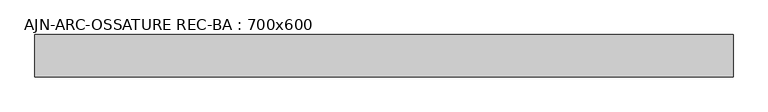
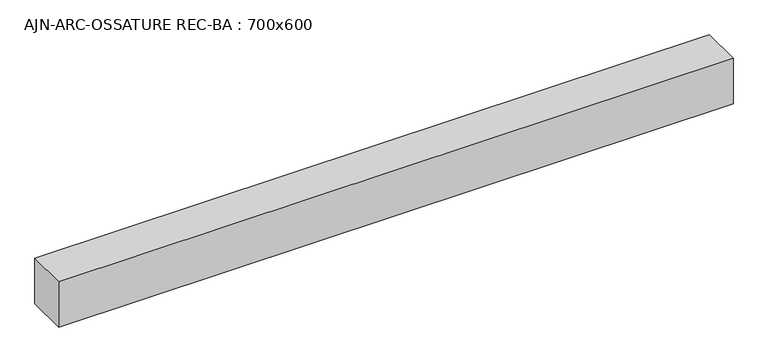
"""IFC4 building model written with IfcOpenShell, lengths in millimetres: beam geometry, AJN-ARC-OSSATURE REC-BA : 700x600."""

import ifcopenshell
import ifcopenshell.guid

model = None  # the IFC model being written
_history = None  # IfcOwnerHistory: only IFC2X3 demands one
_inside = {}  # id of a spatial element -> (the spatial element, [elements in it])
_under = {}  # id of a project, library or spatial element -> (it, [spatial elements below it])
_declared = {}  # id of a project -> (the project, [libraries it declares])
_typed = {}  # id of a type object -> (the type object, [elements of that type])
_made_of = {}  # id of a material, layer set ... -> (it, [elements and type objects made of it])


def new_model(schema):
    """Start an empty IFC model of exactly this schema.

    Asked for "IFC4X3", IfcOpenShell would pick the latest addendum, in which some entities
    have other attributes; the version numbers below select the first issue.
    IFC2X3 requires an IfcOwnerHistory on every rooted entity: one is made here for all.
    """
    global model, _history
    if schema == "IFC4X3":
        model = ifcopenshell.file(schema_version=(4, 3, 0, 0))
    else:
        model = ifcopenshell.file(schema=schema)
    _inside.clear()
    _under.clear()
    _declared.clear()
    _typed.clear()
    _made_of.clear()
    _history = None
    if model.schema == "IFC2X3":
        org = make("IfcOrganization", Name="unknown")
        user = make(
            "IfcPersonAndOrganization",
            ThePerson=make("IfcPerson", FamilyName="unknown"),
            TheOrganization=org,
        )
        app = make(
            "IfcApplication",
            ApplicationDeveloper=org,
            Version="unknown",
            ApplicationFullName="unknown",
            ApplicationIdentifier="unknown",
        )
        _history = make(
            "IfcOwnerHistory",
            OwningUser=user,
            OwningApplication=app,
            ChangeAction="ADDED",
            CreationDate=0,
        )
    return model


def make(cls, **values):
    """One entity of the class cls with the attributes given. An attribute that is None is left unset."""
    return model.create_entity(
        cls, **{name: value for name, value in values.items() if value is not None}
    )


def rooted(cls, **values):
    """An entity with a GlobalId (a new one), such as an element, a storey or a relation."""
    return make(cls, GlobalId=ifcopenshell.guid.new(), OwnerHistory=_history, **values)


def si_unit(unit_type, name, prefix=None):
    """IfcSIUnit, for example si_unit("LENGTHUNIT", "METRE", prefix="MILLI")."""
    return make("IfcSIUnit", UnitType=unit_type, Prefix=prefix, Name=name)


def assignment(units):
    """IfcUnitAssignment: the units of a project."""
    return None if units is None else make("IfcUnitAssignment", Units=units)


def point(xyz):
    """IfcCartesianPoint."""
    return None if xyz is None else make("IfcCartesianPoint", Coordinates=xyz)


def direction(xyz):
    """IfcDirection."""
    return None if xyz is None else make("IfcDirection", DirectionRatios=xyz)


def frame(location, z_axis=None, x_axis=None):
    """IfcAxis2Placement3D, a coordinate frame: its origin and axes. An axis left out is left unset."""
    return make(
        "IfcAxis2Placement3D",
        Location=point(location),
        Axis=direction(z_axis),
        RefDirection=direction(x_axis),
    )


def origin():
    """The frame at (0, 0, 0) with its axes left unset."""
    return frame((0.0, 0.0, 0.0))


def place(relative_to, where):
    """IfcLocalPlacement: puts the frame where relative to a parent placement (None: the world)."""
    return make(
        "IfcLocalPlacement", PlacementRelTo=relative_to, RelativePlacement=where
    )


def context(
    kind, dimensions, precision=None, world=None, true_north=None, identifier=None
):
    """IfcGeometricRepresentationContext, for example the 3D "Model" context."""
    return make(
        "IfcGeometricRepresentationContext",
        ContextIdentifier=identifier,
        ContextType=kind,
        CoordinateSpaceDimension=dimensions,
        Precision=precision,
        WorldCoordinateSystem=world,
        TrueNorth=true_north,
    )


def project(units=None, contexts=None):
    """IfcProject with its units and contexts."""
    return rooted(
        "IfcProject",
        Name="project",
        RepresentationContexts=contexts,
        UnitsInContext=assignment(units),
    )


def spatial(cls, under=None, at=None, **own):
    """A site, building, storey or space (cls), placed at a placement, below another one or the project."""
    s = rooted(cls, ObjectPlacement=at, **own)
    if under is not None:
        _under.setdefault(under.id(), (under, []))[1].append(s)
    return s


def polyline(points):
    """IfcPolyline through the points."""
    return make("IfcPolyline", Points=[point(p) for p in points])


def outline(outer, holes=None, kind="AREA"):
    """IfcArbitraryClosedProfileDef: a profile drawn as a closed curve; with holes, ...WithVoids."""
    if holes is None:
        return make("IfcArbitraryClosedProfileDef", ProfileType=kind, OuterCurve=outer)
    return make(
        "IfcArbitraryProfileDefWithVoids",
        ProfileType=kind,
        OuterCurve=outer,
        InnerCurves=holes,
    )


def extrude(swept, where, along, depth):
    """IfcExtrudedAreaSolid: the profile swept, set in the frame where, extruded along a direction by depth."""
    return make(
        "IfcExtrudedAreaSolid",
        SweptArea=swept,
        Position=where,
        ExtrudedDirection=direction(along),
        Depth=depth,
    )


def shape(context_of_items, identifier, shape_type, items):
    """IfcShapeRepresentation: the items that make up one representation, for example the "Body"."""
    return make(
        "IfcShapeRepresentation",
        ContextOfItems=context_of_items,
        RepresentationIdentifier=identifier,
        RepresentationType=shape_type,
        Items=items,
    )


def source(mapping_origin, context_of_items, identifier, shape_type, items):
    """IfcRepresentationMap: a shape defined once, which mapped items show again and again."""
    return make(
        "IfcRepresentationMap",
        MappingOrigin=mapping_origin,
        MappedRepresentation=shape(context_of_items, identifier, shape_type, items),
    )


def transform(
    local_origin,
    x_axis=None,
    y_axis=None,
    z_axis=None,
    scale=None,
    scale2=None,
    scale3=None,
    uniform=True,
):
    """IfcCartesianTransformationOperator3D, or its non-uniform kind. x_axis, y_axis, z_axis: its Axis1, 2, 3."""
    if uniform:
        return make(
            "IfcCartesianTransformationOperator3D",
            Axis1=direction(x_axis),
            Axis2=direction(y_axis),
            LocalOrigin=point(local_origin),
            Scale=scale,
            Axis3=direction(z_axis),
        )
    return make(
        "IfcCartesianTransformationOperator3DnonUniform",
        Axis1=direction(x_axis),
        Axis2=direction(y_axis),
        LocalOrigin=point(local_origin),
        Scale=scale,
        Axis3=direction(z_axis),
        Scale2=scale2,
        Scale3=scale3,
    )


def mapped(mapping_source, mapping_target):
    """IfcMappedItem: shows the shape of a source again, moved by a transform."""
    return make(
        "IfcMappedItem", MappingSource=mapping_source, MappingTarget=mapping_target
    )


def made_of(thing, what):
    """Note that an element or type object is made of a material, layer set ...; save() writes the relation."""
    if what is not None:
        _made_of.setdefault(what.id(), (what, []))[1].append(thing)
    return thing


def element(
    cls,
    number,
    at=None,
    inside=None,
    cuts=None,
    type_object=None,
    material=None,
    context=None,
    identifier="Body",
    shape_type=None,
    held_by="IfcProductDefinitionShape",
    body=None,
    shapes=None,
    **own,
):
    """One element of the class cls, such as IfcWall. Its Tag is "e" and its number.

    at: its placement. inside: the storey or other place that contains it. cuts: it is an
    opening in that element (IfcRelVoidsElement). A single representation is given by context,
    identifier, shape_type and body (its items); several are given by shapes. held_by: the class
    of the entity that holds the representations. save() writes the other relations.
    """
    e = rooted(cls, Tag="e%d" % number, ObjectPlacement=at, **own)
    if body is not None:
        shapes = [shape(context, identifier, shape_type, body)]
    if shapes is not None:
        e.Representation = make(held_by, Representations=shapes)
    if inside is not None:
        _inside.setdefault(inside.id(), (inside, []))[1].append(e)
    if cuts is not None:
        rooted(
            "IfcRelVoidsElement", RelatingBuildingElement=cuts, RelatedOpeningElement=e
        )
    if type_object is not None:
        _typed.setdefault(type_object.id(), (type_object, []))[1].append(e)
    return made_of(e, material)


def aggregate(whole, parts):
    """IfcRelAggregates: a whole, such as a stair, and the parts it consists of."""
    return rooted("IfcRelAggregates", RelatingObject=whole, RelatedObjects=parts)


def save(model, path):
    """Write the relations noted so far, then the file.

    IfcRelAggregates (storeys below a building ...), IfcRelContainedInSpatialStructure (elements
    in a storey), IfcRelDefinesByType, IfcRelAssociatesMaterial and IfcRelDeclares: one each for
    every whole, place, type object, material and project.
    """
    for whole, parts in _under.values():
        aggregate(whole, parts)
    for where, things in _inside.values():
        rooted(
            "IfcRelContainedInSpatialStructure",
            RelatedElements=things,
            RelatingStructure=where,
        )
    for kind, things in _typed.values():
        rooted("IfcRelDefinesByType", RelatedObjects=things, RelatingType=kind)
    for what, things in _made_of.values():
        rooted("IfcRelAssociatesMaterial", RelatedObjects=things, RelatingMaterial=what)
    for by, libraries in _declared.values():
        rooted("IfcRelDeclares", RelatingContext=by, RelatedDefinitions=libraries)
    model.write(path)


def ajn_arc_ossature_rec_ba_700x600_73fcd0c3(model_context):
    return source(origin(), model_context, "Body", "SweptSolid", [
        extrude(outline(polyline([(4937.3, 300.0), (4937.3, -300.0), (-4937.3, -300.0), (-4937.3, 300.0), (4937.3, 300.0)])), frame((0.0, 0.0, -350.0), z_axis=(0.0, 0.0, 1.0), x_axis=(1.0, 0.0, 0.0)), (0.0, 0.0, 1.0), 700.0),
    ])


if __name__ == "__main__":
    model = new_model("IFC4")
    model_context = context("Model", 3, world=origin())
    ifc_project = project(units=[si_unit("LENGTHUNIT", "METRE", prefix="MILLI")], contexts=[model_context])
    site = spatial("IfcSite", under=ifc_project)
    building = spatial("IfcBuilding", under=site)
    placement = place(None, origin())
    ajn_arc_ossature_rec_ba_700x600_shape = ajn_arc_ossature_rec_ba_700x600_73fcd0c3(model_context)
    element("IfcBeam", 1, ObjectType="AJN-ARC-OSSATURE REC-BA : 700x600", at=placement, inside=building, context=model_context, shape_type="MappedRepresentation", body=[
        mapped(ajn_arc_ossature_rec_ba_700x600_shape, transform((0.0, 0.0, 0.0), x_axis=(1.0, 0.0, 0.0), y_axis=(0.0, 1.0, 0.0), z_axis=(0.0, 0.0, 1.0))),
    ])
    save(model, "model.ifc")
